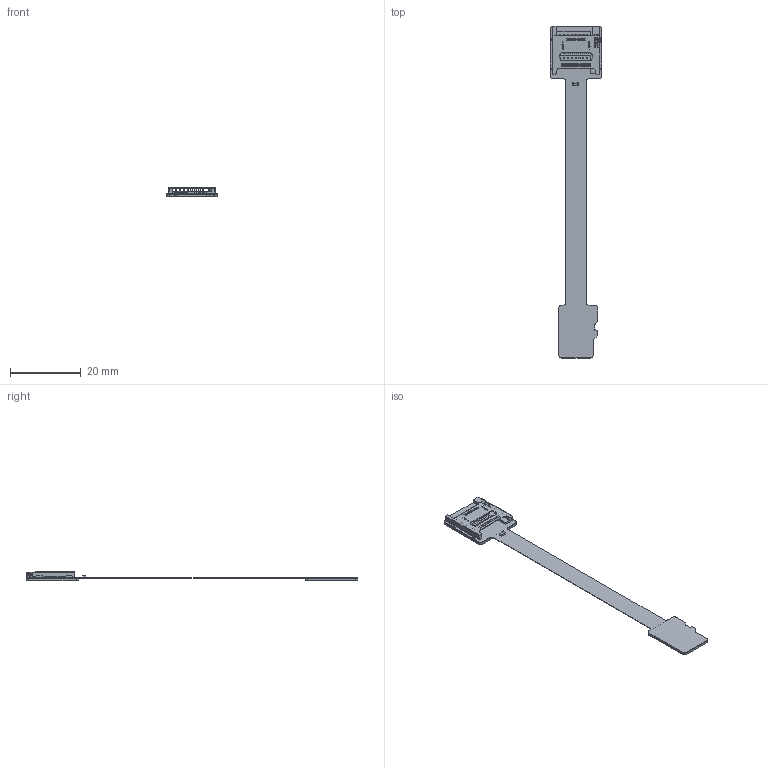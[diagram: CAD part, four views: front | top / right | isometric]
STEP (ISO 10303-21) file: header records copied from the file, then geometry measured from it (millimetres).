
FILE_DESCRIPTION(('Open CASCADE Model'),'2;1');
FILE_NAME('Open CASCADE Shape Model','2022-06-04T11:01:51',('Author'),( 'Open CASCADE'),'Open CASCADE STEP processor 6.8','Open CASCADE 6.8' ,'Unknown');
FILE_SCHEMA(('AUTOMOTIVE_DESIGN { 1 0 10303 214 1 1 1 1 }'));
Length unit declared in the file: millimetre
Products named in the file (16): PCB; Board; Open CASCADE STEP translator 6.8 1.1.1; Designator9; micro_SD_connector_STEP-693072010801-rev1; 693072010801; 693072010801_PIN; 693072010801_PATTE; 693072010801_CACHE; 693072010801_PATTE_SPE; Free-Models; uSD_conn_pad_RGB32896; C0603_060; uSD_PAD_RGB32896
Assembly tree (25 placements, depth 4):
  PCB
    Board
      Open CASCADE STEP translator 6.8 1.1.1
    Designator9
      micro_SD_connector_STEP-693072010801-rev1
        693072010801
        693072010801_PIN  x8
        693072010801_PATTE  x4
        693072010801_CACHE
        693072010801_PATTE_SPE
    Free-Models
      uSD_conn_pad_RGB32896
      C0603_060
      C0603_060
      C0603_060
      uSD_PAD_RGB32896
Bounding box: 14.6 x 94.16 x 2.57 mm (x, y, z)
Volume: 426 mm3; surface area: 3062.7 mm2
Topology: 21 solids, 21 shells, 987 faces, 2738 edges, 1796 vertices
Faces by surface type: plane 636, cylinder 339, sphere 8, bspline 2, torus 2
Full cylindrical faces by diameter (mm): 0.3 x2, 0.7 x2
Entity records: 24148 total; most frequent: CARTESIAN_POINT 3545, ORIENTED_EDGE 3404, DIRECTION 3284, EDGE_CURVE 1702, LINE 1382, VECTOR 1382, VERTEX_POINT 1120, AXIS2_PLACEMENT_3D 951
